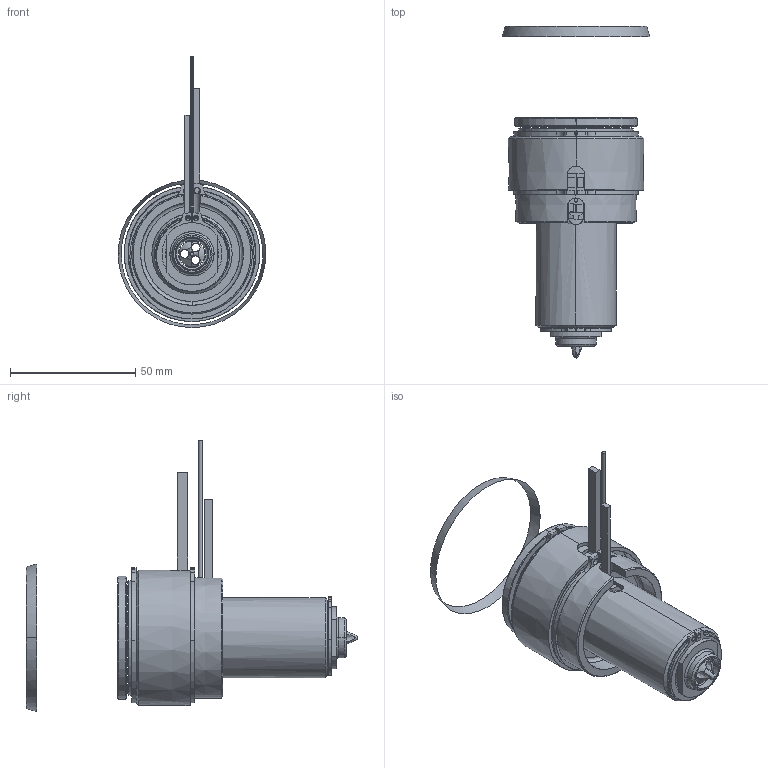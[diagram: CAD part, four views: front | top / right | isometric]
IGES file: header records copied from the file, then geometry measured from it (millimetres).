
Start section: SolidWorks IGES file using analytic representation for surfaces
Global section: file name: C:\Documents and Settings\ws-20\Desktop\TEM\UGEP5501-S-A-0 [Øf-1.36 ØC-12].IGS; native system: SolidWorks 2012; preprocessor: SolidWorks 2012; author: ws-20; date: 120427.075816; units: millimetre
Bounding box: 58.79 x 132.24 x 108.04 mm (x, y, z)
Surface area: 49365.2 mm2 (no closed solid volume)
Topology: 0 solids, 0 shells, 179 faces, 3668 edges, 3668 vertices
Faces by surface type: revolution 115, bspline 64
